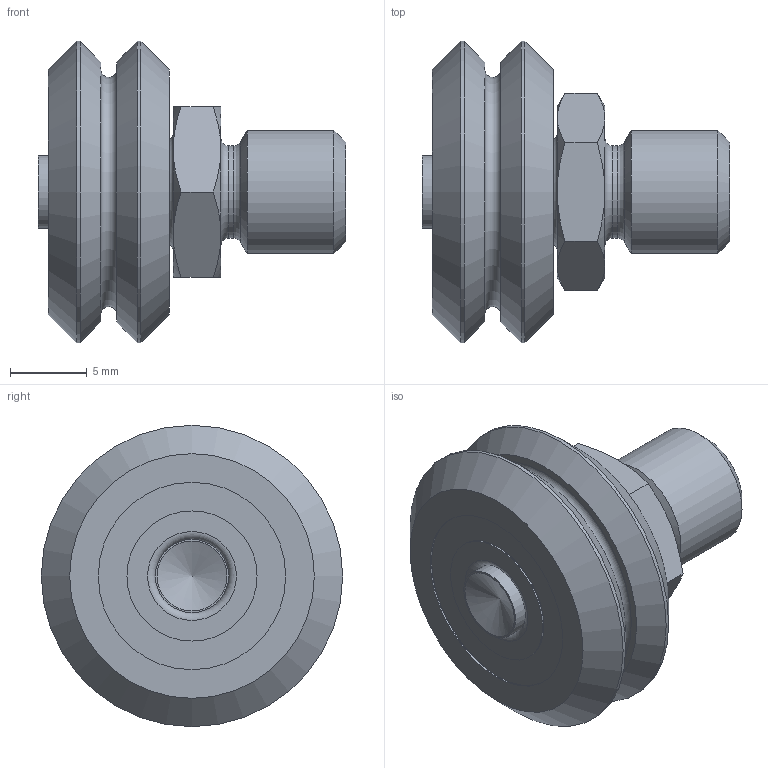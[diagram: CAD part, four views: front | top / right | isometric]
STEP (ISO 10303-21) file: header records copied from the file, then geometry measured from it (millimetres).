
FILE_DESCRIPTION( ( 'STEP AP214' ), '1' );
FILE_NAME( 'p:/temp/worker_32/temp/app_46_02019012316051025350999192d056f_000000_00_00_000000/format_0/SWSC1XA.stp', '2019-01-23T15:05:11', ( '' ), ( '' ), ' ', 'PARTsolutions', ' ' );
FILE_SCHEMA( ( 'AUTOMOTIVE_DESIGN { 1 0 10303 214 1 1 1 1 }' ) );
Length unit declared in the file: inch
Products named in the file (3): SWSC1XA; _SWSC1; _W1X
Assembly tree (2 placements, depth 2):
  SWSC1XA
    _SWSC1
    _W1X
Bounding box: 19.96 x 19.58 x 19.58 mm (x, y, z)
Volume: 2626.4 mm3; surface area: 1863.2 mm2
Topology: 2 solids, 2 shells, 63 faces, 114 edges, 68 vertices
Faces by surface type: plane 23, cone 19, cylinder 14, torus 7
Full cylindrical faces by diameter (mm): 4.752 x1, 4.762 x1, 5.994 x1, 8 x1, 8.23 x2, 8.458 x2, 12.179 x2, 12.408 x2, 19.583 x2
Entity records: 2020 total; most frequent: CARTESIAN_POINT 339, DIRECTION 248, ORIENTED_EDGE 170, AXIS2_PLACEMENT_3D 121, EDGE_LOOP 106, EDGE_CURVE 85, FACE_OUTER_BOUND 84, VERTEX_POINT 68
